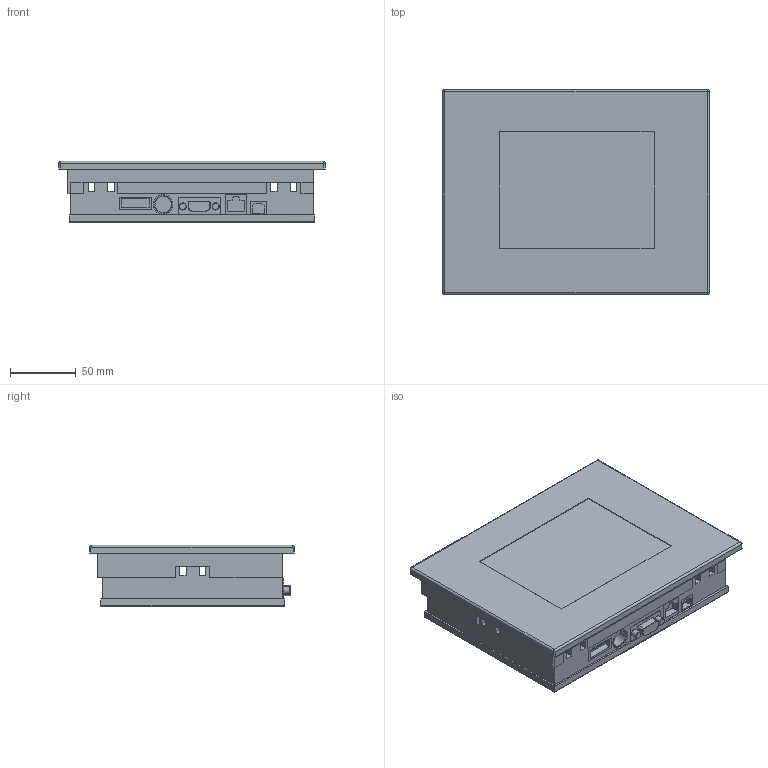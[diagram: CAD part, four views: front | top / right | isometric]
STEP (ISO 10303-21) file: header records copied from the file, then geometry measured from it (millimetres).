
FILE_DESCRIPTION(('FreeCAD Model'),'2;1');
FILE_NAME('D:/Docs/WWW/SB_STEP_HMI_PCD7D457VTCZ11_2019-12-13.step', '2019-12-13T08:37:30',('Author'),(''), 'Open CASCADE STEP processor 7.3','FreeCAD','Unknown');
FILE_SCHEMA(('AUTOMOTIVE_DESIGN { 1 0 10303 214 1 1 1 1 }'));
Length unit declared in the file: millimetre
Products named in the file (11): Unterdeckel; Communication; Rahmen; Gummizapfen; Abdeckung; Display; Abdeckung_unten; D-Sub_Seitlich; Innere_Platte; ETH1; USB
Bounding box: 203 x 156 x 47 mm (x, y, z)
Volume: 1276117.4 mm3; surface area: 375452 mm2
Topology: 11 solids, 11 shells, 254 faces, 611 edges, 396 vertices
Faces by surface type: plane 216, cylinder 27, torus 6, bspline 4, revolution 1
Full cylindrical faces by diameter (mm): 5.5 x4, 12.5 x1, 13.5 x1, 15 x1
Entity records: 15775 total; most frequent: CARTESIAN_POINT 3040, DIRECTION 2331, LINE 1709, VECTOR 1709, ORIENTED_EDGE 1216, PCURVE 1216, DEFINITIONAL_REPRESENTATION 1216, EDGE_CURVE 608
